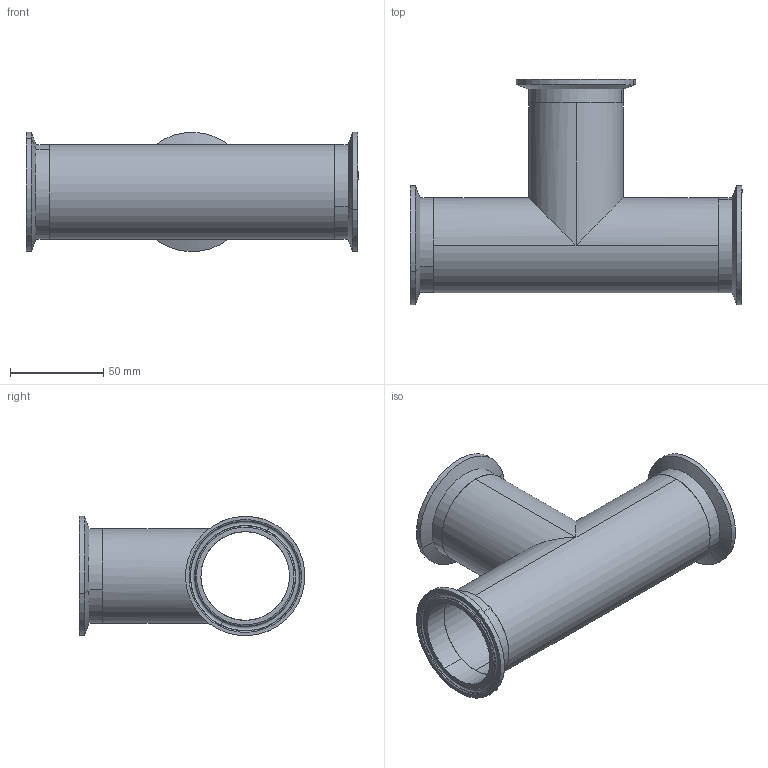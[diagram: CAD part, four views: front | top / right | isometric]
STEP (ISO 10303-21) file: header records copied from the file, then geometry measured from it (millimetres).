
FILE_DESCRIPTION (( 'STEP AP203' ), '1' );
FILE_NAME ('EG72.0.STEP', '2018-05-21T15:04:55', ( 'vneprd' ), ( 'Microsoft' ), 'SwSTEP 2.0', 'SolidWorks 2014', '' );
FILE_SCHEMA (( 'CONFIG_CONTROL_DESIGN' ));
Length unit declared in the file: inch
Products named in the file (3): EG72.0; EG2CS2.0; V7W2.0
Assembly tree (4 placements, depth 2):
  EG72.0
    V7W2.0
    EG2CS2.0  x3
Bounding box: 177.8 x 120.82 x 63.84 mm (x, y, z)
Volume: 72295.8 mm3; surface area: 82302.4 mm2
Topology: 4 solids, 4 shells, 76 faces, 154 edges, 88 vertices
Faces by surface type: cylinder 28, cone 18, torus 18, plane 12
Entity records: 1283 total; most frequent: DIRECTION 190, CARTESIAN_POINT 163, ORIENTED_EDGE 140, AXIS2_PLACEMENT_3D 83, EDGE_CURVE 70, CIRCLE 42, VERTEX_POINT 40, EDGE_LOOP 40
